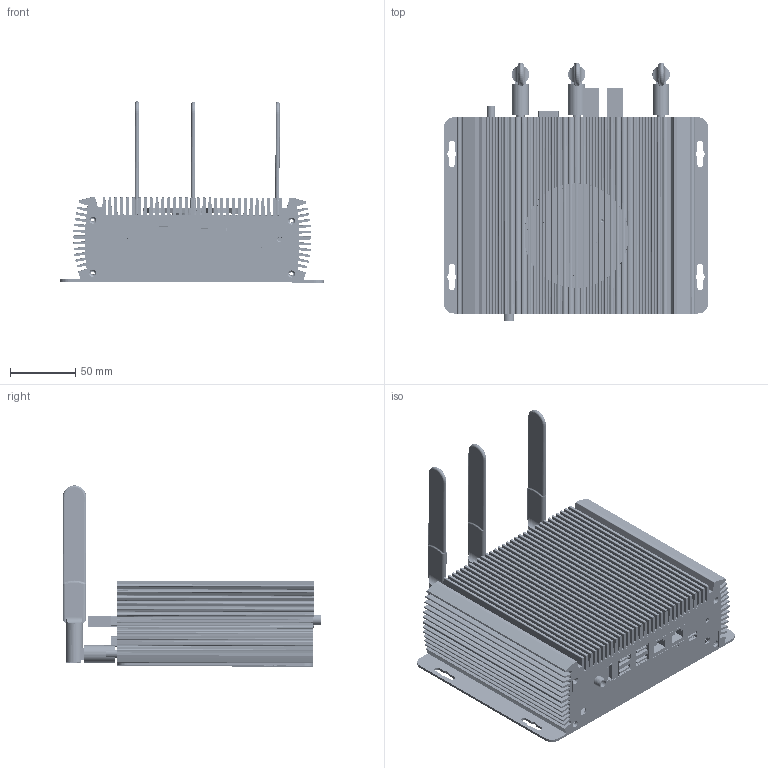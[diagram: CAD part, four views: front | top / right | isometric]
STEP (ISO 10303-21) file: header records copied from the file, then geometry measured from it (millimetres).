
FILE_DESCRIPTION((''),'2;1');
FILE_NAME('11F1E6_ASM','2025-11-28T09:44:39',('Lenovo'),(''),'CREO PARAMETRIC BY PTC INC, 2022073','CREO PARAMETRIC BY PTC INC, 2022073','');
FILE_SCHEMA(('AUTOMOTIVE_DESIGN { 1 0 10303 214 1 1 1 1 }'));
Products named in the file (383): M3X5_300; M3X20_300; 11F1E2000; SMASLDPRT00; 11F1E200; 11F1E6000; JETSON_ORIN_NX_ORIN_NANO_MO-280; JETSON_ORIN_NX_ORIN_NANO_MO-585; JETSON_ORIN_NX_ORIN_NANO_M-1536; JETSON_ORIN_NX_ORIN_NANO_M-1880; JETSON_ORIN_NX_ORIN_NANO_M-3164; JETSON_ORIN_NX_ORIN_NANO_M-3471; JETSON_ORIN_NX_ORIN_NANO_M-3802; JETSON_ORIN_NX_ORIN_NANO_M-4112; JETSON_ORIN_NX_ORIN_NANO_M-4765; JETSON_ORIN_NX_ORIN_NANO_M-5089; JETSON_ORIN_NX_ORIN_NANO_M-5756; JETSON_ORIN_NX_ORIN_NANO_M-8682; JETSON_ORIN_NX_ORIN_NANO_M-8997; JETSON_ORIN_NX_ORIN_NANO_M-9327; JETSON_ORIN_NX_ORIN_NANO_M-9629; JETSON_ORIN_NX_ORIN_NANO_M-9946; JETSON_ORIN_NX_ORIN_NANO_-10582; JETSON_ORIN_NX_ORIN_NANO_-11246; JETSON_ORIN_NX_ORIN_NANO_-11552; JETSON_ORIN_NX_ORIN_NANO_-11871; JETSON_ORIN_NX_ORIN_NANO_-12820; JETSON_ORIN_NX_ORIN_NANO_-13457; JETSON_ORIN_NX_ORIN_NANO_-13770; JETSON_ORIN_NX_ORIN_NANO_-14126; JETSON_ORIN_NX_ORIN_NANO_-14756; JETSON_ORIN_NX_ORIN_NANO_-15087; JETSON_ORIN_NX_ORIN_NANO_-15723; JETSON_ORIN_NX_ORIN_NANO_-16041; JETSON_ORIN_NX_ORIN_NANO_-16348; JETSON_ORIN_NX_ORIN_NANO_-16978; JETSON_ORIN_NX_ORIN_NANO_-17303; JETSON_ORIN_NX_ORIN_NANO_-17628; JETSON_ORIN_NX_ORIN_NANO_-17954; JETSON_ORIN_NX_ORIN_NANO_-18914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
Assembly tree (1134 placements, depth 6):
  11F1E6_ASM
    11F1E620250819000_ASM
      M3X5_300  x4
      M3X20_300  x4
      11F1E2000
      SMASLDPRT00  x3
      11F1E200
      11F1E6000
      JETSON_ORIN_NX_ORIN_NANO-112573_ASM
        P3767-GROGU_ASM_STP_ASM
          080-1655-000_3_STP_ASM
            JETSON_ORIN_NX_ORIN_NANO_MO-280
            JETSON_ORIN_NX_ORIN_NANO_MO-585
            JETSON_ORIN_NX_ORIN_NANO_M-1536
            JETSON_ORIN_NX_ORIN_NANO_M-1880
            JETSON_ORIN_NX_ORIN_NANO_M-3164
            JETSON_ORIN_NX_ORIN_NANO_M-3471
            JETSON_ORIN_NX_ORIN_NANO_M-3802
            JETSON_ORIN_NX_ORIN_NANO_M-4112
            JETSON_ORIN_NX_ORIN_NANO_M-4765
            JETSON_ORIN_NX_ORIN_NANO_M-5089
            JETSON_ORIN_NX_ORIN_NANO_M-5756
            JETSON_ORIN_NX_ORIN_NANO_M-8682
            JETSON_ORIN_NX_ORIN_NANO_M-8997
            JETSON_ORIN_NX_ORIN_NANO_M-9327
            JETSON_ORIN_NX_ORIN_NANO_M-9629
            JETSON_ORIN_NX_ORIN_NANO_M-9946
            JETSON_ORIN_NX_ORIN_NANO_-10582
            JETSON_ORIN_NX_ORIN_NANO_-11246
            JETSON_ORIN_NX_ORIN_NANO_-11552
            JETSON_ORIN_NX_ORIN_NANO_-11871
            JETSON_ORIN_NX_ORIN_NANO_-12820
            JETSON_ORIN_NX_ORIN_NANO_-13457
            JETSON_ORIN_NX_ORIN_NANO_-13770
            JETSON_ORIN_NX_ORIN_NANO_-14126
            JETSON_ORIN_NX_ORIN_NANO_-14756
            JETSON_ORIN_NX_ORIN_NANO_-15087
            JETSON_ORIN_NX_ORIN_NANO_-15723
            JETSON_ORIN_NX_ORIN_NANO_-16041
            JETSON_ORIN_NX_ORIN_NANO_-16348
            JETSON_ORIN_NX_ORIN_NANO_-16978
            JETSON_ORIN_NX_ORIN_NANO_-17303
            JETSON_ORIN_NX_ORIN_NANO_-17628
            JETSON_ORIN_NX_ORIN_NANO_-17954
            JETSON_ORIN_NX_ORIN_NANO_-18914
            JETSON_ORIN_NX_ORIN_NANO_-19531
            JETSON_ORIN_NX_ORIN_NANO_-19871
            JETSON_ORIN_NX_ORIN_NANO_-20188
            JETSON_ORIN_NX_ORIN_NANO_-20842
            JETSON_ORIN_NX_ORIN_NANO_-21173
            JETSON_ORIN_NX_ORIN_NANO_-21809
            JETSON_ORIN_NX_ORIN_NANO_-22128
            JETSON_ORIN_NX_ORIN_NANO_-22434
            JETSON_ORIN_NX_ORIN_NANO_-22757
            JETSON_ORIN_NX_ORIN_NANO_-23079
            JETSON_ORIN_NX_ORIN_NANO_-23396
            JETSON_ORIN_NX_ORIN_NANO_-23732
            JETSON_ORIN_NX_ORIN_NANO_-24054
            JETSON_ORIN_NX_ORIN_NANO_-25002
            JETSON_ORIN_NX_ORIN_NANO_-45173
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Bounding box: 202.01 x 197.81 x 138.58 mm (x, y, z)
Volume: 671657.1 mm3; surface area: 518821.1 mm2
Topology: 1119 solids, 1121 shells, 10171 faces, 23105 edges, 15297 vertices
Faces by surface type: plane 8179, cylinder 1763, cone 140, bspline 48, torus 30, extrusion 11
Entity records: 191887 total; most frequent: CARTESIAN_POINT 33379, DIRECTION 31109, ORIENTED_EDGE 25486, EDGE_CURVE 12747, AXIS2_PLACEMENT_3D 10944, VECTOR 9221, LINE 9210, VERTEX_POINT 8457
